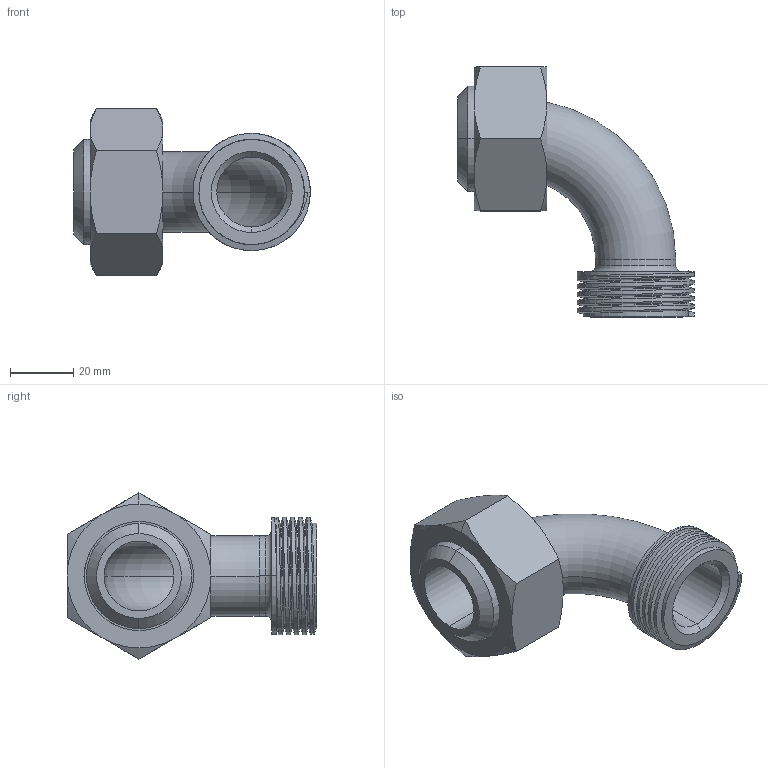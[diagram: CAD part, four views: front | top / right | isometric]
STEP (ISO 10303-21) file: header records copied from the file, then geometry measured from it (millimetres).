
FILE_DESCRIPTION (( 'STEP AP214' ), '1' );
FILE_NAME ('2F 1.0.STEP', '2025-06-13T14:16:01', ( '' ), ( '' ), 'SwSTEP 2.0', 'SolidWorks 2022', '' );
FILE_SCHEMA (( 'AUTOMOTIVE_DESIGN' ));
Length unit declared in the file: millimetre
Products named in the file (5): 14PR1.0 REV1; 13H1.0; 2WCL1.0; 15TR1.0; 2F 1.0
Assembly tree (4 placements, depth 2):
  2F 1.0
    13H1.0
    2WCL1.0
    14PR1.0 REV1
    15TR1.0
Bounding box: 74.97 x 79.18 x 52.65 mm (x, y, z)
Volume: 40543.5 mm3; surface area: 30745.8 mm2
Topology: 5 solids, 5 shells, 83 faces, 184 edges, 116 vertices
Faces by surface type: cylinder 28, plane 24, cone 18, bspline 7, torus 6
Entity records: 4854 total; most frequent: CARTESIAN_POINT 2895, ORIENTED_EDGE 368, DIRECTION 368, EDGE_CURVE 184, AXIS2_PLACEMENT_3D 157, VERTEX_POINT 116, EDGE_LOOP 96, FACE_OUTER_BOUND 83
